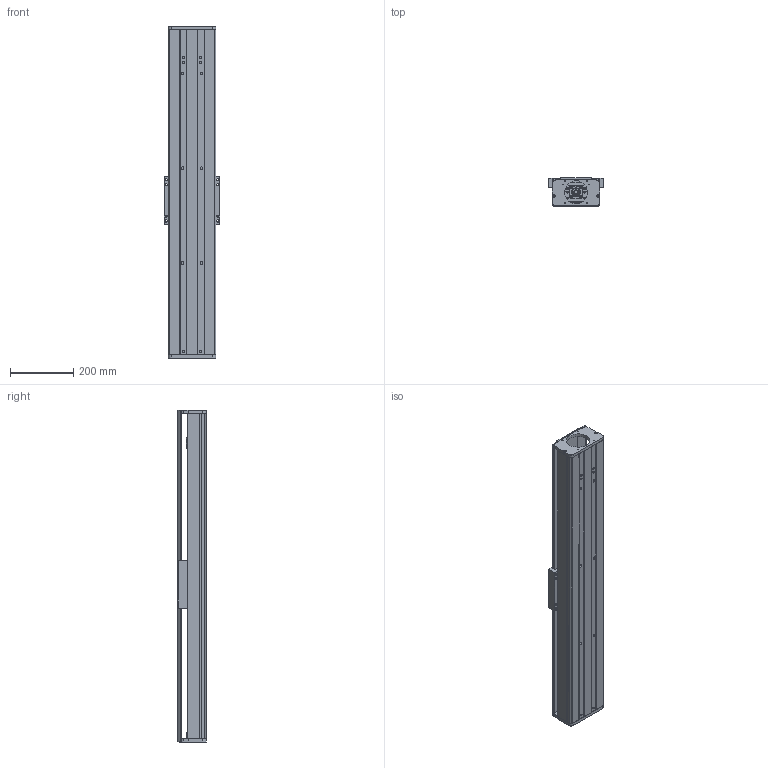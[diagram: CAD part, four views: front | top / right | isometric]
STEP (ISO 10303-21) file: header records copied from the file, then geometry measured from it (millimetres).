
FILE_DESCRIPTION (( 'STEP AP203' ), '1' );
FILE_NAME ('CF150-P750.STEP', '2016-02-23T05:26:28', ( 'Sky123.Org' ), ( 'Sky123.Org' ), 'SwSTEP 2.0', 'SolidWorks 2015', '' );
FILE_SCHEMA (( 'CONFIG_CONTROL_DESIGN' ));
Length unit declared in the file: millimetre
Products named in the file (20): CF150裔啣; M15X1坶踡蹟譫; hGH15CA賑輸; CF150-P750; 撑圈-15; BK15+BF15; BK15; 150-20蹟譫釱; 150-86俋离萇儂假蚾啣; SFU2005-3蹟譫; BF15; 蚾饜极2^蚾饜极1; deep groove ball bearings gb_Rolling bearings 6002 GB 276-94; 150賑輸; ѹȦ-15; 150臏倰第; 150耜啣; 长撑圈-15; HGR15絳寢
Assembly tree (24 placements, depth 3):
  CF150-P750
    150臏倰第
    HGR15絳寢  x2
    hGH15CA賑輸  x4
    BK15+BF15
    150-20蹟譫釱
    150-86俋离萇儂假蚾啣
    BF15
    BK15
      deep groove ball bearings gb_Rolling bearings 6002 GB 276-94  x2
      ѹȦ-15
      长撑圈-15
      M15X1坶踡蹟譫
      撑圈-15
      BK15
    蚾饜极2^蚾饜极1
      SFU2005-3蹟譫
    150賑輸
    150耜啣
    CF150裔啣
Bounding box: 175 x 89 x 1050.24 mm (x, y, z)
Volume: 5235761.4 mm3; surface area: 1633517.4 mm2
Topology: 22 solids, 22 shells, 1448 faces, 4394 edges, 2926 vertices
Faces by surface type: cylinder 707, plane 545, torus 112, sphere 64, cone 16, bspline 4
Entity records: 114916 total; most frequent: CARTESIAN_POINT 85154, ORIENTED_EDGE 6010, DIRECTION 5523, EDGE_CURVE 3005, AXIS2_PLACEMENT_3D 2084, VERTEX_POINT 2000, EDGE_LOOP 1357, VECTOR 1355
